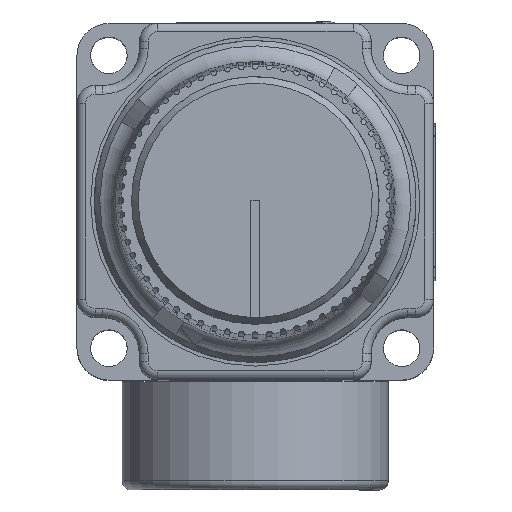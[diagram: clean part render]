
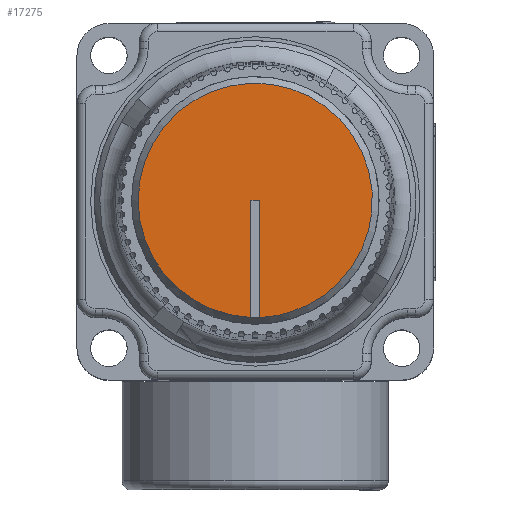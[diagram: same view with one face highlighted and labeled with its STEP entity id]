
A CAD part, top view. The second image highlights one B-rep face of the part: STEP entity #17275.
In plain terms, the highlighted planar face has unit normal (0, 0, 1).
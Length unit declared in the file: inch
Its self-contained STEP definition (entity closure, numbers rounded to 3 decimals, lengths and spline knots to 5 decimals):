
#583=PLANE('',#18853);
#1588=FACE_OUTER_BOUND('',#2595,.T.);
#2595=EDGE_LOOP('',(#13446,#13447,#13448,#13449,#13450));
#3448=CIRCLE('',#18854,0.4);
#3449=CIRCLE('',#18855,0.4);
#4764=LINE('',#31280,#5974);
#4765=LINE('',#31286,#5975);
#4766=LINE('',#31287,#5976);
#5974=VECTOR('',#22771,0.3937);
#5975=VECTOR('',#22776,0.3937);
#5976=VECTOR('',#22777,0.3937);
#7388=VERTEX_POINT('',#31278);
#7389=VERTEX_POINT('',#31279);
#7390=VERTEX_POINT('',#31281);
#7391=VERTEX_POINT('',#31283);
#7392=VERTEX_POINT('',#31285);
#9514=EDGE_CURVE('',#7388,#7389,#4764,.T.);
#9515=EDGE_CURVE('',#7389,#7390,#3448,.T.);
#9516=EDGE_CURVE('',#7390,#7391,#3449,.T.);
#9517=EDGE_CURVE('',#7391,#7392,#4765,.T.);
#9518=EDGE_CURVE('',#7392,#7388,#4766,.T.);
#13446=ORIENTED_EDGE('',*,*,#9514,.T.);
#13447=ORIENTED_EDGE('',*,*,#9515,.T.);
#13448=ORIENTED_EDGE('',*,*,#9516,.T.);
#13449=ORIENTED_EDGE('',*,*,#9517,.T.);
#13450=ORIENTED_EDGE('',*,*,#9518,.T.);
#17275=ADVANCED_FACE('',(#1588),#583,.T.);
#18853=AXIS2_PLACEMENT_3D('',#31277,#22769,#22770);
#18854=AXIS2_PLACEMENT_3D('',#31282,#22772,#22773);
#18855=AXIS2_PLACEMENT_3D('',#31284,#22774,#22775);
#22769=DIRECTION('center_axis',(0.,0.,1.));
#22770=DIRECTION('ref_axis',(1.,0.,0.));
#22771=DIRECTION('',(0.,-1.,0.));
#22772=DIRECTION('center_axis',(0.,0.,
1.));
#22773=DIRECTION('ref_axis',(0.325,0.946,0.));
#22774=DIRECTION('center_axis',(0.,0.,
1.));
#22775=DIRECTION('ref_axis',(0.325,0.946,0.));
#22776=DIRECTION('',(0.,1.,0.));
#22777=DIRECTION('',(1.,0.,0.));
#31277=CARTESIAN_POINT('Origin',(-0.09756,-0.37665,
1.82375));
#31278=CARTESIAN_POINT('',(-0.08256,0.02347,1.82375));
#31279=CARTESIAN_POINT('',(-0.08256,-0.37625,1.82375));
#31280=CARTESIAN_POINT('',(-0.08256,0.02347,1.82375));
#31281=CARTESIAN_POINT('',(0.01662,-0.35989,1.82375));
#31282=CARTESIAN_POINT('Origin',(-0.09756,0.02347,
1.82375));
#31283=CARTESIAN_POINT('',(-0.11256,-0.37625,1.82375));
#31284=CARTESIAN_POINT('Origin',(-0.09756,0.02347,
1.82375));
#31285=CARTESIAN_POINT('',(-0.11256,0.02347,1.82375));
#31286=CARTESIAN_POINT('',(-0.11256,-0.37625,1.82375));
#31287=CARTESIAN_POINT('',(-0.11256,0.02347,1.82375));
